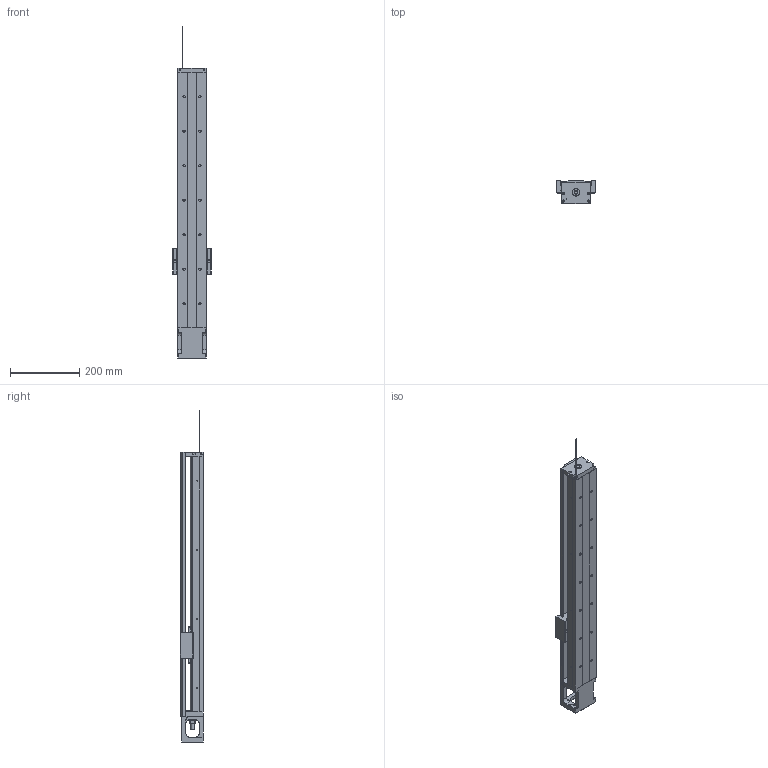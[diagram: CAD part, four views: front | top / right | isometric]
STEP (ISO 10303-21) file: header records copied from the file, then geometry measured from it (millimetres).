
FILE_DESCRIPTION(/* description */ (''),/* implementation_level */ '2;1');
FILE_NAME(/* name */ 'KP46N-740-C-D.stp',/* time_stamp */ '2020-06-05T09:58:50+08:00',/* author */ (''),/* organization */ (''),/* preprocessor_version */ 'ST-DEVELOPER v14',/* originating_system */ 'SIEMENS PLM Software NX 8.0',/* authorisation */ '');
FILE_SCHEMA (('AUTOMOTIVE_DESIGN { 1 0 10303 214 3 1 1 1 }'));
Length unit declared in the file: millimetre
Products named in the file (1): model1
Bounding box: 112 x 68 x 961.69 mm (x, y, z)
Volume: 2175114.5 mm3; surface area: 553876.8 mm2
Topology: 11 solids, 22 shells, 748 faces, 1952 edges, 1285 vertices
Faces by surface type: plane 353, cylinder 269, cone 68, bspline 50, torus 8
Full cylindrical faces by diameter (mm): 2.11 x4, 2.15 x8, 2.42 x8, 2.5 x4, 3 x6, 3.2 x4, 3.3 x12, 3.4 x8, 4 x4, 4.2 x4, 4.5 x8, 5 x14, 6 x8, 6.35 x2, 6.6 x14, 9.6 x1, 10 x4, 11 x14, 12 x1, 14.95 x2, 15 x1, 16 x2, 22 x3, 27.5 x1, 44 x1, 50 x1
Entity records: 33062 total; most frequent: CARTESIAN_POINT 13272, ORIENTED_EDGE 3320, DIRECTION 3289, EDGE_CURVE 1660, AXIS2_PLACEMENT_3D 1219, VERTEX_POINT 1200, EDGE_LOOP 1057, LINE 851
